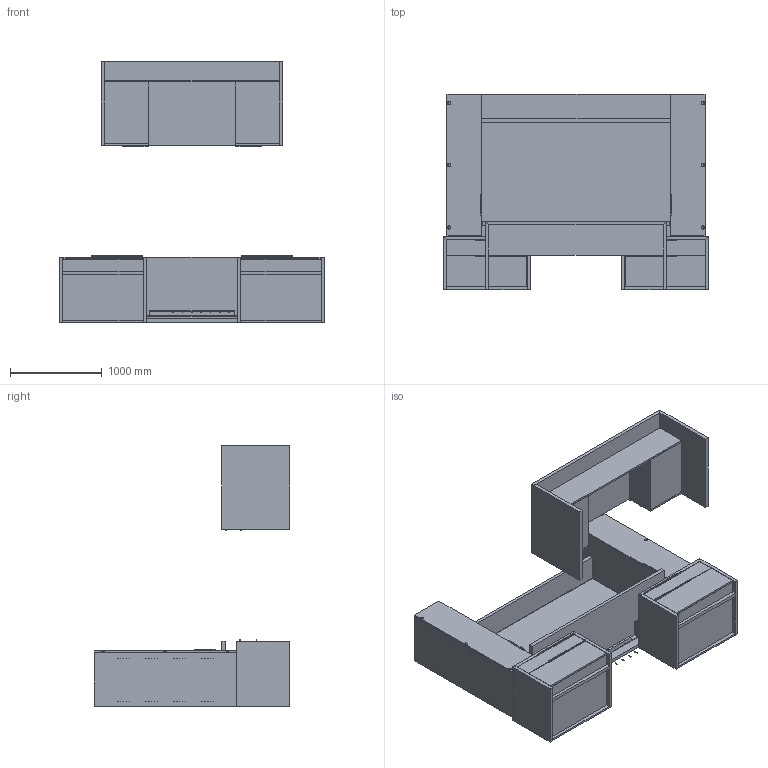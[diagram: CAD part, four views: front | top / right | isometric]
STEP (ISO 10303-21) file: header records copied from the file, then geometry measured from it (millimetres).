
FILE_DESCRIPTION(/* description */ ('','CAx-IF Rec.Pracs.---Representation and Presentation of Product Manufacturing Information (PMI)---4.0---2014-10-13'),/* implementation_level */ '2;1');
FILE_NAME(/* name */ 'PRIVATE OFFICE_FOUNDATION 1.stp',/* time_stamp */ '2024-12-08T10:41:26-05:00',/* author */ ('mbowman'),/* organization */ (''),/* preprocessor_version */ 'ST-DEVELOPER v19.2',/* originating_system */ 'Autodesk Inventor 2023',/* authorisation */ '');
FILE_SCHEMA (('AP242_MANAGED_MODEL_BASED_3D_ENGINEERING_MIM_LF { 1 0 10303 442 1 1 4 }'));
Products named in the file (55): FOUNDATION^PO1_OFFICE-FULL SOLID ASSEMBLY; FOUNDATION^PO1_WALL UNIT-SOLID ASSEMBLY; FOUNDATION^PO1_14in WALL HUNG SHELF-PARTS SOLID; FOUNDATION^PO 1_LAT BF LEFT-SOLID ASSEMBLY; FOUNDATION^PO 1_LAT BF LEFT-PARTS SOLID; FOUNDATION^PO 1_LAT BF RIGHT-SOLID ASSEMBLY; FOUNDATION^PO 1_LAT BF RIGHT-PARTS SOLID; JW PULL-22_25_STANDARD; FOUNDATION^PO 1_WARDROBE LEFT-ASSEMBLY; FOUNDATION^PO 1_WARDROBE LEFT-LEFT END; FOUNDATION^PO 1_WARDROBE LEFT-TOP; FOUNDATION^PO 1_WARDROBE LEFT-RIGHT END; FOUNDATION^PO 1_WARDROBE LEFT-BACK; FOUNDATION^PO 1_WARDROBE LEFT-BOTTOM; FOUNDATION^PO 1_WARDROBE LEFT-DOOR; FOUNDATION^PO 1_WARDROBE LEFT-ADJ SHELF; FullOverlay Hinge; FullOverlay Hinge_1; FullOverlay Hinge_2; FOUNDATION^PO 1_WARDROBE RIGHT-ASSEMBLY; FOUNDATION^PO 1_WARDROBE RIGHT-LEFT END; FOUNDATION^PO 1_WARDROBE RIGHT-TOP; FOUNDATION^PO 1_WARDROBE RIGHT-RIGHT END; FOUNDATION^PO 1_WARDROBE RIGHT-BACK; FOUNDATION^PO 1_WARDROBE RIGHT-BOTTOM; FOUNDATION^PO 1_WARDROBE RIGHT-DOOR; FOUNDATION^PO 1_WARDROBE RIGHT-HAT SHELF; FullOverlay Hinge_3; FullOverlay Hinge_4; FullOverlay Hinge_5; Can; Pin; Arm; ArmPin; Guide01; Guide02; Keeper; COAT ROD 13-34 - (H-254 ); COAT ROD CAP-(MM-115Z); JW PULL-9^STANDARD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
Assembly tree (107 placements, depth 5):
  FOUNDATION^PO1_OFFICE-FULL SOLID ASSEMBLY
    FOUNDATION^PO1_WALL UNIT-SOLID ASSEMBLY
      FOUNDATION^PO1_14in WALL HUNG SHELF-PARTS SOLID
      FOUNDATION^PO 1_LAT BF LEFT-SOLID ASSEMBLY
        FOUNDATION^PO 1_LAT BF LEFT-PARTS SOLID
        JW PULL-22_25_STANDARD  x2
      FOUNDATION^PO 1_LAT BF RIGHT-SOLID ASSEMBLY
        FOUNDATION^PO 1_LAT BF RIGHT-PARTS SOLID
        JW PULL-22_25_STANDARD  x2
      FOUNDATION^PO 1_WARDROBE LEFT-ASSEMBLY
        FOUNDATION^PO 1_WARDROBE LEFT-LEFT END
        FOUNDATION^PO 1_WARDROBE LEFT-TOP
        FOUNDATION^PO 1_WARDROBE LEFT-RIGHT END
        FOUNDATION^PO 1_WARDROBE LEFT-BACK
        FOUNDATION^PO 1_WARDROBE LEFT-BOTTOM
        FOUNDATION^PO 1_WARDROBE LEFT-DOOR
        FOUNDATION^PO 1_WARDROBE LEFT-ADJ SHELF  x4
        FullOverlay Hinge
          Can
          Pin
          Arm
          ArmPin  x2
          Guide01
          Guide02
          Keeper
        FullOverlay Hinge_1
          Can
          Pin
          Arm
          ArmPin  x2
          Guide01
          Guide02
          Keeper
        FullOverlay Hinge_2
          Can
          Pin
          Arm
          ArmPin  x2
          Guide01
          Guide02
          Keeper
        JW PULL-9^STANDARD
      FOUNDATION^PO 1_WARDROBE RIGHT-ASSEMBLY
        FOUNDATION^PO 1_WARDROBE RIGHT-LEFT END
        FOUNDATION^PO 1_WARDROBE RIGHT-TOP
        FOUNDATION^PO 1_WARDROBE RIGHT-RIGHT END
        FOUNDATION^PO 1_WARDROBE RIGHT-BACK
        FOUNDATION^PO 1_WARDROBE RIGHT-BOTTOM
        FOUNDATION^PO 1_WARDROBE RIGHT-DOOR
        FOUNDATION^PO 1_WARDROBE RIGHT-HAT SHELF
        FullOverlay Hinge_3
          Can
          Pin
          Arm
          ArmPin  x2
          Guide01
          Guide02
          Keeper
        FullOverlay Hinge_4
          Can
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Bounding box: 2895.6 x 2133.6 x 2844.8 mm (x, y, z)
Volume: 656982184.4 mm3; surface area: 60295680.4 mm2
Topology: 130 solids, 170 shells, 6891 faces, 16813 edges, 10304 vertices
Faces by surface type: plane 3586, cylinder 2277, torus 428, bspline 280, cone 248, sphere 72
Full cylindrical faces by diameter (mm): 1.587 x6, 2 x114, 4.2 x12, 4.6 x4, 4.826 x10, 5 x114, 5.3 x12, 5.5 x4, 5.6 x6, 6.35 x4, 8 x4, 8.202 x40, 35 x6, 38.1 x2
Entity records: 84912 total; most frequent: CARTESIAN_POINT 19381, DIRECTION 13560, ORIENTED_EDGE 11856, EDGE_CURVE 5928, AXIS2_PLACEMENT_3D 4883, LINE 3794, VECTOR 3794, VERTEX_POINT 3739
